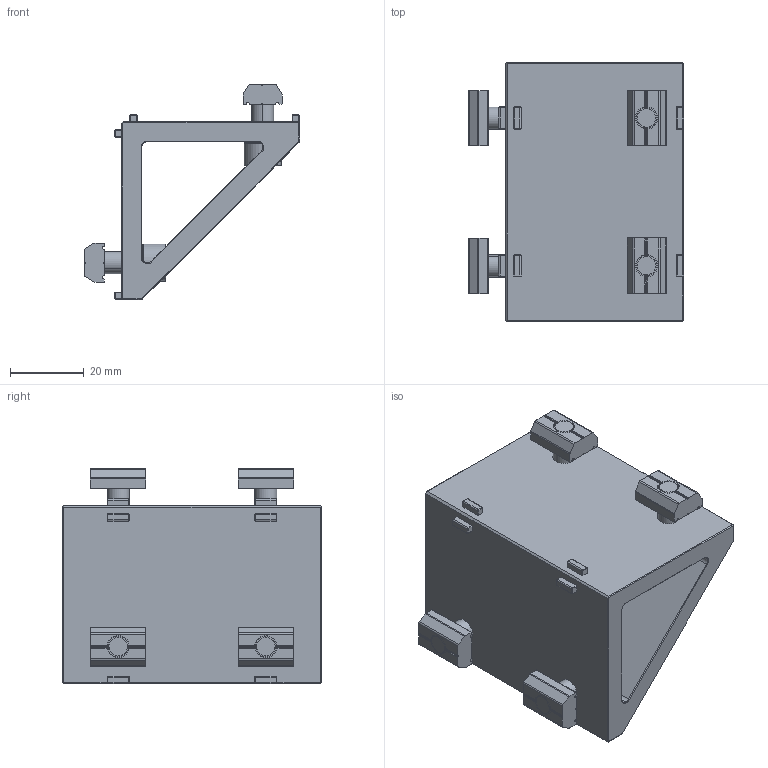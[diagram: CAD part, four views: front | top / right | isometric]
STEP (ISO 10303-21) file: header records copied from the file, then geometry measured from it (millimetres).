
FILE_DESCRIPTION (( 'STEP AP214' ), '1' );
FILE_NAME ('SMBD3-4080T.STEP', '2023-07-20T06:21:38', ( 'Windows User' ), ( 'P R C' ), 'SwSTEP 2.0', 'SolidWorks 2019', '' );
FILE_SCHEMA (( 'AUTOMOTIVE_DESIGN' ));
Length unit declared in the file: millimetre
Products named in the file (5): PTS-M6; 4080倰第褒璃; SMBD3-4080T; PTC-M6L16; PTN-M6
Assembly tree (13 placements, depth 2):
  SMBD3-4080T
    4080倰第褒璃
    PTN-M6  x4
    PTS-M6  x4
    PTC-M6L16  x4
Bounding box: 58.25 x 70 x 58.25 mm (x, y, z)
Volume: 59087 mm3; surface area: 27587.7 mm2
Topology: 13 solids, 13 shells, 1150 faces, 3275 edges, 2143 vertices
Faces by surface type: plane 899, cylinder 176, cone 67, bspline 8
Entity records: 18237 total; most frequent: CARTESIAN_POINT 6490, ORIENTED_EDGE 2440, DIRECTION 2405, EDGE_CURVE 1220, LINE 817, VECTOR 817, AXIS2_PLACEMENT_3D 794, VERTEX_POINT 775
